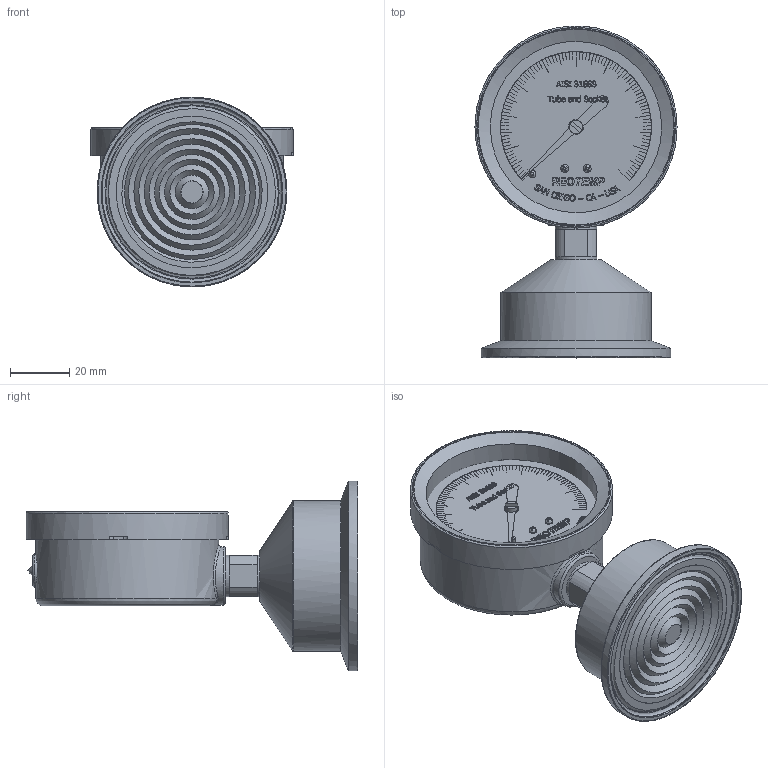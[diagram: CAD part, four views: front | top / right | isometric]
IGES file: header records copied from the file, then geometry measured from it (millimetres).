
Global section: file name: SG25-2in-Triclamp-IGS; native system: Autodesk Inventor 2018; preprocessor: unknown; author: MNeill; date: 20170925.145527; units: inch
Bounding box: 68.07 x 111.77 x 63.91 mm (x, y, z)
Volume: 102823.1 mm3; surface area: 41545.6 mm2
Topology: 25 solids, 26 shells, 1317 faces, 3628 edges, 2423 vertices
Faces by surface type: bspline 1317
